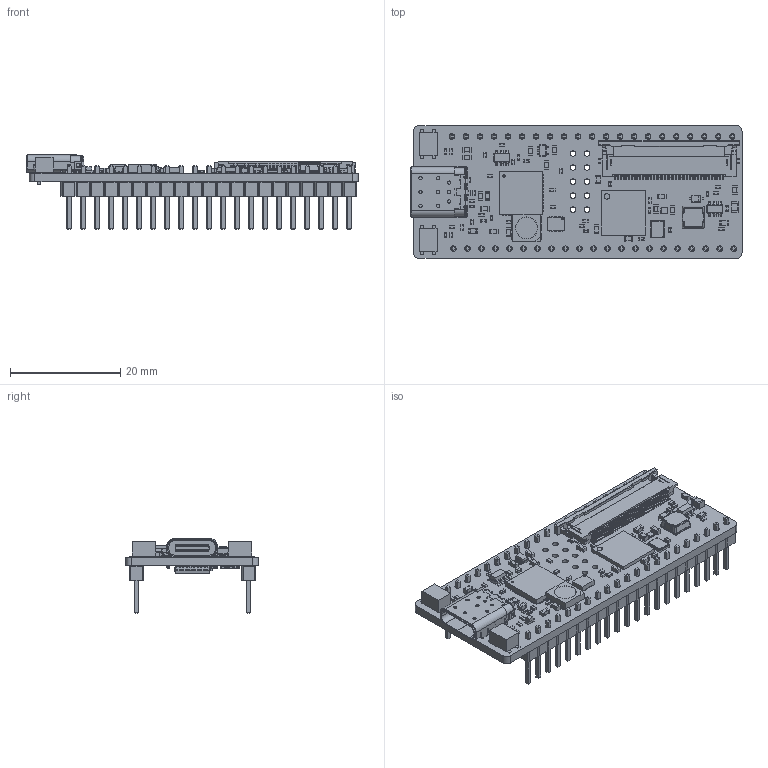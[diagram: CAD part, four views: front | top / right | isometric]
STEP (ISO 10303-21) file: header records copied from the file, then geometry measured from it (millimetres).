
FILE_DESCRIPTION(('KiCad electronic assembly'),'2;1');
FILE_NAME('ten_nano.step','2020-05-01T02:41:32',('An Author'),( 'A Company'),'Open CASCADE STEP processor 6.9', 'KiCad to STEP converter','Unknown');
FILE_SCHEMA(('AUTOMOTIVE_DESIGN { 1 0 10303 214 1 1 1 1 }'));
Length unit declared in the file: millimetre
Products named in the file (48): Open CASCADE STEP translator 6.9 1; 54132-4062; SOLID; COMPOUND; 10M02SCM153C8G; C_0402_1005Metric; R_0402_1005Metric; LED_RGB_5050-6; SOT-23-6; C_0603_1608Metric; SSOP-20_4.4x6.5mm_P0.65mm; R_0603_1608Metric; QFN-56-1EP_8x8mm_P0.5mm_EP4.6x5.3mm; L_0603_1608Metric; Crystal_SMD_3225-4Pin_3.2x2.5mm; L_Bourns-SRN4018; C_0805_2012Metric; PinHeader_1x21_P2.54mm_Vertical; 74LVC4066BQ,115; SOT-353_SC-70-5; PTS815_SJM_250_SMTR_LFS; 12401598E4#2A--3DModel-STEP-56544; LED_0603_1608Metric; D_SOD-323F; DFN-6-1EP_1.2x1.2mm_P0.4mm_EP0.3x0.94mm_PullBack
Assembly tree (126 placements, depth 3):
  Open CASCADE STEP translator 6.9 1
    54132-4062
      SOLID
      SOLID
      COMPOUND
    10M02SCM153C8G
      COMPOUND
    C_0402_1005Metric  x35
      SOLID
    R_0402_1005Metric  x24
      SOLID
    LED_RGB_5050-6
      SOLID
    SOT-23-6  x2
      SOLID
    C_0603_1608Metric  x9
      SOLID
    SSOP-20_4.4x6.5mm_P0.65mm
      SOLID
    R_0603_1608Metric  x3
      SOLID
    QFN-56-1EP_8x8mm_P0.5mm_EP4.6x5.3mm
      SOLID
    L_0603_1608Metric  x9
      SOLID
    Crystal_SMD_3225-4Pin_3.2x2.5mm
      SOLID
    L_Bourns-SRN4018
      COMPOUND
    C_0805_2012Metric
      SOLID
    PinHeader_1x21_P2.54mm_Vertical  x2
      SOLID
    74LVC4066BQ,115
      COMPOUND
    SOT-353_SC-70-5
      SOLID
    PTS815_SJM_250_SMTR_LFS  x2
      COMPOUND
    12401598E4#2A--3DModel-STEP-56544
      COMPOUND
    LED_0603_1608Metric
      SOLID
    D_SOD-323F
      SOLID
    DFN-6-1EP_1.2x1.2mm_P0.4mm_EP0.3x0.94mm_PullBack  x2
      SOLID
    COMPOUND
Bounding box: 60.18 x 24.08 x 13.52 mm (x, y, z)
Volume: 3722.1 mm3; surface area: 8730.9 mm2
Topology: 335 solids, 335 shells, 7416 faces, 20211 edges, 13376 vertices
Faces by surface type: plane 5488, cylinder 1563, bspline 179, sphere 157, torus 21, cone 8
Full cylindrical faces by diameter (mm): 0.1 x2, 0.312 x1, 0.4 x1, 0.5 x1, 0.65 x2, 1 x53, 3.9 x1, 4 x1
Entity records: 331409 total; most frequent: CARTESIAN_POINT 59295, DIRECTION 47459, LINE 34268, VECTOR 34268, ORIENTED_EDGE 25066, PCURVE 25066, DEFINITIONAL_REPRESENTATION 25066, EDGE_CURVE 12533
